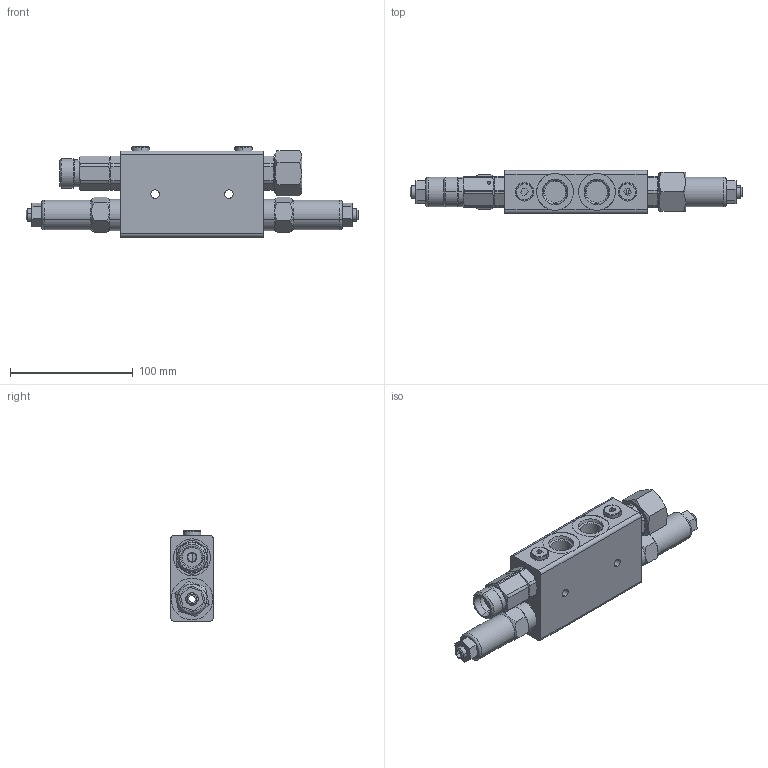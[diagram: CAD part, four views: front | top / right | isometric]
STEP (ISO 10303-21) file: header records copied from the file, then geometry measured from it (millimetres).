
FILE_DESCRIPTION (( 'STEP AP214' ), '1' );
FILE_NAME ('VCD34005.STEP', '2025-05-23T00:52:22', ( '' ), ( '' ), 'SwSTEP 2.0', 'SolidWorks 2023', '' );
FILE_SCHEMA (( 'AUTOMOTIVE_DESIGN' ));
Length unit declared in the file: millimetre
Products named in the file (1): VCD34005
Bounding box: 270.65 x 35 x 73.5 mm (x, y, z)
Surface area: 57752.6 mm2 (no closed solid volume)
Topology: 0 solids, 16 shells, 262 faces, 692 edges, 448 vertices
Faces by surface type: plane 103, cylinder 79, cone 60, torus 20
Entity records: 9231 total; most frequent: CARTESIAN_POINT 2787, DIRECTION 1386, ORIENTED_EDGE 1238, EDGE_CURVE 692, AXIS2_PLACEMENT_3D 547, VERTEX_POINT 448, EDGE_LOOP 299, VECTOR 292
